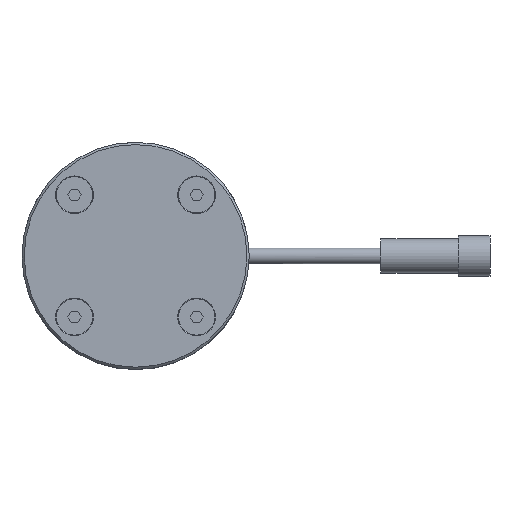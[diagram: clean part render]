
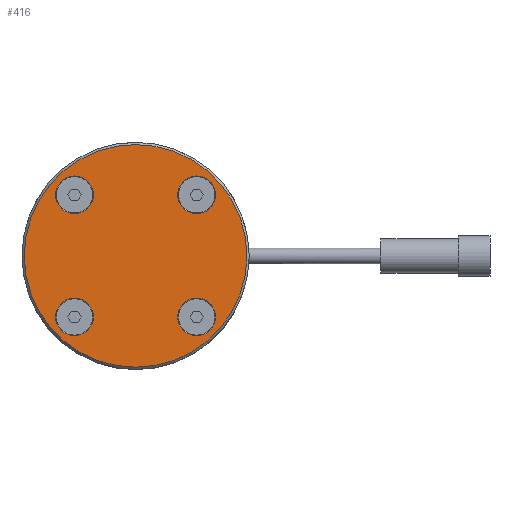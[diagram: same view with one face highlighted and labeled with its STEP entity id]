
A CAD part, top view. The second image highlights one B-rep face of the part: STEP entity #416.
In plain terms, the highlighted planar face has unit normal (0, 0, 1).
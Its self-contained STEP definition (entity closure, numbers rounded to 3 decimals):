
#416=ADVANCED_FACE('',(#975,#976,#977,#978,#979),#980,.F.);
#975=FACE_BOUND('',#1637,.T.);
#976=FACE_BOUND('',#1638,.T.);
#977=FACE_BOUND('',#1639,.T.);
#978=FACE_BOUND('',#1640,.T.);
#979=FACE_OUTER_BOUND('',#1641,.T.);
#980=PLANE('',#1642);
#1637=EDGE_LOOP('',(#2649));
#1638=EDGE_LOOP('',(#2650));
#1639=EDGE_LOOP('',(#2651));
#1640=EDGE_LOOP('',(#2652));
#1641=EDGE_LOOP('',(#2653));
#1642=AXIS2_PLACEMENT_3D('',#2654,#2655,#2656);
#2649=ORIENTED_EDGE('',*,*,#3379,.T.);
#2650=ORIENTED_EDGE('',*,*,#3380,.T.);
#2651=ORIENTED_EDGE('',*,*,#3381,.T.);
#2652=ORIENTED_EDGE('',*,*,#3382,.T.);
#2653=ORIENTED_EDGE('',*,*,#3377,.F.);
#2654=CARTESIAN_POINT('',(0.0,0.,30.));
#2655=DIRECTION('',(-0.0,0.,-1.0));
#2656=DIRECTION('',(0.0,1.0,0.));
#3377=EDGE_CURVE('',#3925,#3925,#3926,.T.);
#3379=EDGE_CURVE('',#3928,#3928,#3929,.F.);
#3380=EDGE_CURVE('',#3930,#3930,#3931,.F.);
#3381=EDGE_CURVE('',#3932,#3932,#3933,.F.);
#3382=EDGE_CURVE('',#3934,#3934,#3935,.F.);
#3925=VERTEX_POINT('',#4764);
#3926=CIRCLE('',#4765,24.5);
#3928=VERTEX_POINT('',#4767);
#3929=CIRCLE('',#4768,4.15);
#3930=VERTEX_POINT('',#4769);
#3931=CIRCLE('',#4770,4.15);
#3932=VERTEX_POINT('',#4771);
#3933=CIRCLE('',#4772,4.15);
#3934=VERTEX_POINT('',#4773);
#3935=CIRCLE('',#4774,4.15);
#4764=CARTESIAN_POINT('',(0.0,24.5,30.));
#4765=AXIS2_PLACEMENT_3D('',#5415,#5416,#5417);
#4767=CARTESIAN_POINT('',(-9.29,13.44,30.));
#4768=AXIS2_PLACEMENT_3D('',#5418,#5419,#5420);
#4769=CARTESIAN_POINT('',(17.59,13.44,30.));
#4770=AXIS2_PLACEMENT_3D('',#5421,#5422,#5423);
#4771=CARTESIAN_POINT('',(17.59,-13.44,30.));
#4772=AXIS2_PLACEMENT_3D('',#5424,#5425,#5426);
#4773=CARTESIAN_POINT('',(-9.29,-13.44,30.));
#4774=AXIS2_PLACEMENT_3D('',#5427,#5428,#5429);
#5415=CARTESIAN_POINT('',(0.0,0.,30.));
#5416=DIRECTION('',(-0.0,0.,-1.0));
#5417=DIRECTION('',(0.0,1.0,0.));
#5418=CARTESIAN_POINT('',(-13.44,13.44,30.));
#5419=DIRECTION('',(0.0,0.0,1.0));
#5420=DIRECTION('',(1.0,0.0,-0.0));
#5421=CARTESIAN_POINT('',(13.44,13.44,30.));
#5422=DIRECTION('',(0.0,0.0,1.0));
#5423=DIRECTION('',(1.0,0.0,-0.0));
#5424=CARTESIAN_POINT('',(13.44,-13.44,30.));
#5425=DIRECTION('',(0.0,0.0,1.0));
#5426=DIRECTION('',(1.0,0.0,-0.0));
#5427=CARTESIAN_POINT('',(-13.44,-13.44,30.));
#5428=DIRECTION('',(0.0,0.0,1.0));
#5429=DIRECTION('',(1.0,0.0,-0.0));
